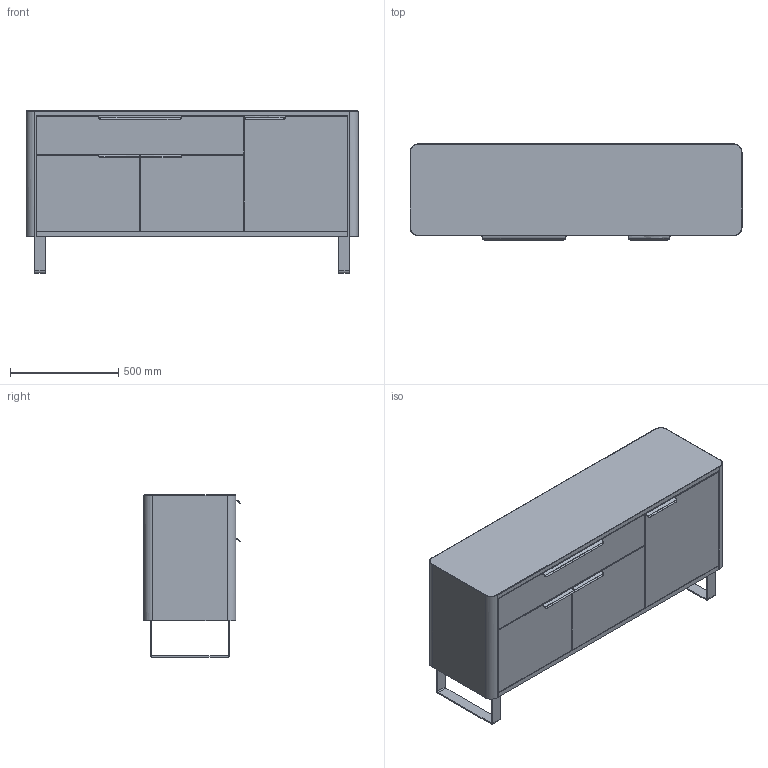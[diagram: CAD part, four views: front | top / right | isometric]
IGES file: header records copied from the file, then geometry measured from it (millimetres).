
Start section: Comment
Global section: file name: ZB-SB-1537-H3 - V02 - Kufen.igs; native system:  By UGS Corp.; preprocessor: XPlus GENERIC/IGES 3.0; author: Author; organization: Title; date: 20210906.144634; units: inch
Bounding box: 1537 x 445.33 x 752.5 mm (x, y, z)
Surface area: 4150902.7 mm2 (no closed solid volume)
Topology: 0 solids, 0 shells, 181 faces, 928 edges, 928 vertices
Faces by surface type: bspline 181
